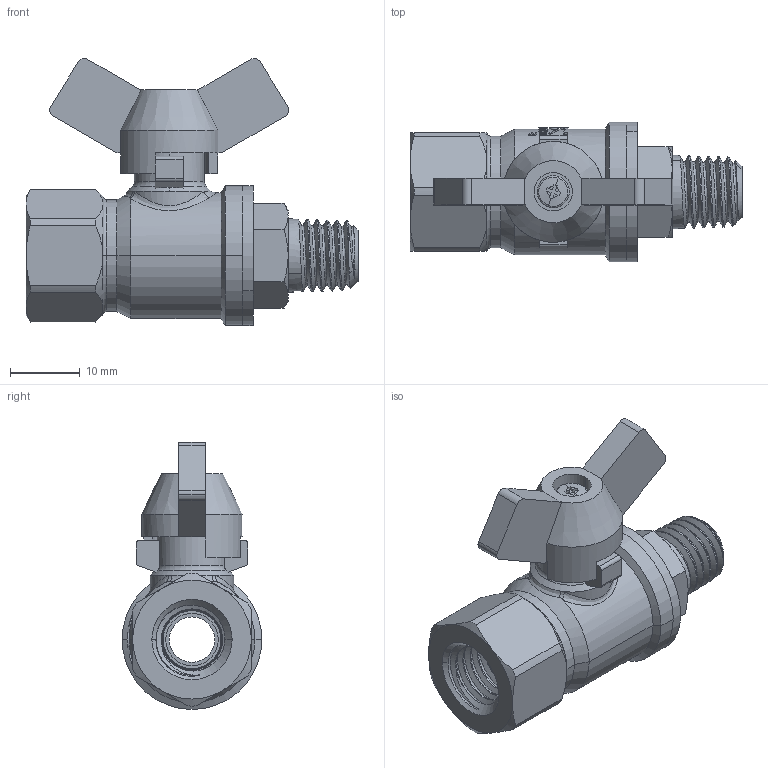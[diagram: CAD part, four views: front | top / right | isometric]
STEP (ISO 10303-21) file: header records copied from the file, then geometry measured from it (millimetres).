
FILE_DESCRIPTION(('Open CASCADE Model'),'2;1');
FILE_NAME('Open CASCADE Shape Model','2021-12-15T12:21:18',('Author'),( 'Open CASCADE'),'Open CASCADE STEP processor 7.3','Open CASCADE 7.3' ,'Unknown');
FILE_SCHEMA(('AUTOMOTIVE_DESIGN { 1 0 10303 214 1 1 1 1 }'));
Length unit declared in the file: millimetre
Products named in the file (11): Open CASCADE STEP translator 7.3 1; Open CASCADE STEP translator 7.3 1.1; Open CASCADE STEP translator 7.3 1.2; Open CASCADE STEP translator 7.3 1.3; Open CASCADE STEP translator 7.3 1.4; Open CASCADE STEP translator 7.3 1.5; Open CASCADE STEP translator 7.3 1.6; Open CASCADE STEP translator 7.3 1.7; Open CASCADE STEP translator 7.3 1.8; Open CASCADE STEP translator 7.3 1.9; Open CASCADE STEP translator 7.3 1.10
Assembly tree (10 placements, depth 2):
  Open CASCADE STEP translator 7.3 1
    Open CASCADE STEP translator 7.3 1.1
    Open CASCADE STEP translator 7.3 1.2
    Open CASCADE STEP translator 7.3 1.3
    Open CASCADE STEP translator 7.3 1.4
    Open CASCADE STEP translator 7.3 1.5
    Open CASCADE STEP translator 7.3 1.6
    Open CASCADE STEP translator 7.3 1.7
    Open CASCADE STEP translator 7.3 1.8
    Open CASCADE STEP translator 7.3 1.9
    Open CASCADE STEP translator 7.3 1.10
Bounding box: 47.5 x 20 x 38.21 mm (x, y, z)
Volume: 9400 mm3; surface area: 9778.7 mm2
Topology: 10 solids, 10 shells, 533 faces, 1359 edges, 872 vertices
Faces by surface type: cylinder 154, plane 138, bspline 114, cone 83, torus 34, sphere 6, revolution 4
Entity records: 87148 total; most frequent: CARTESIAN_POINT 63212, DIRECTION 3421, ORIENTED_EDGE 2710, PCURVE 2710, DEFINITIONAL_REPRESENTATION 2710, LINE 1712, VECTOR 1712, B_SPLINE_CURVE_WITH_KNOTS 1639
